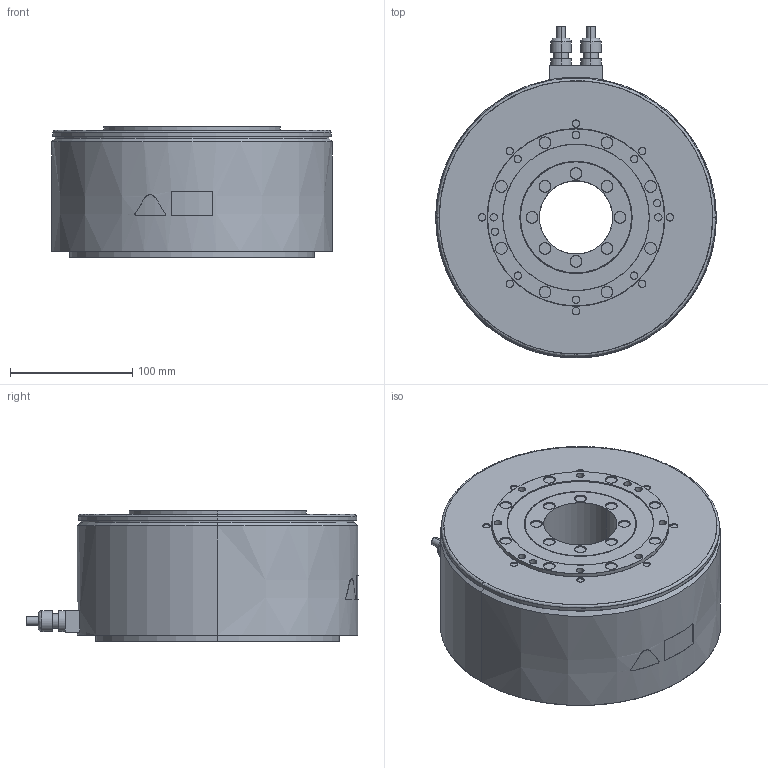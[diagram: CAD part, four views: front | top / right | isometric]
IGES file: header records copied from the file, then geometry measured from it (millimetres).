
Start section: SolidWorks IGES file using analytic representation for surfaces
Bounding box: 230 x 272.1 x 107 mm (x, y, z)
Surface area: 186069.1 mm2 (no closed solid volume)
Topology: 0 solids, 0 shells, 263 faces, 6450 edges, 6450 vertices
Faces by surface type: revolution 164, bspline 99
